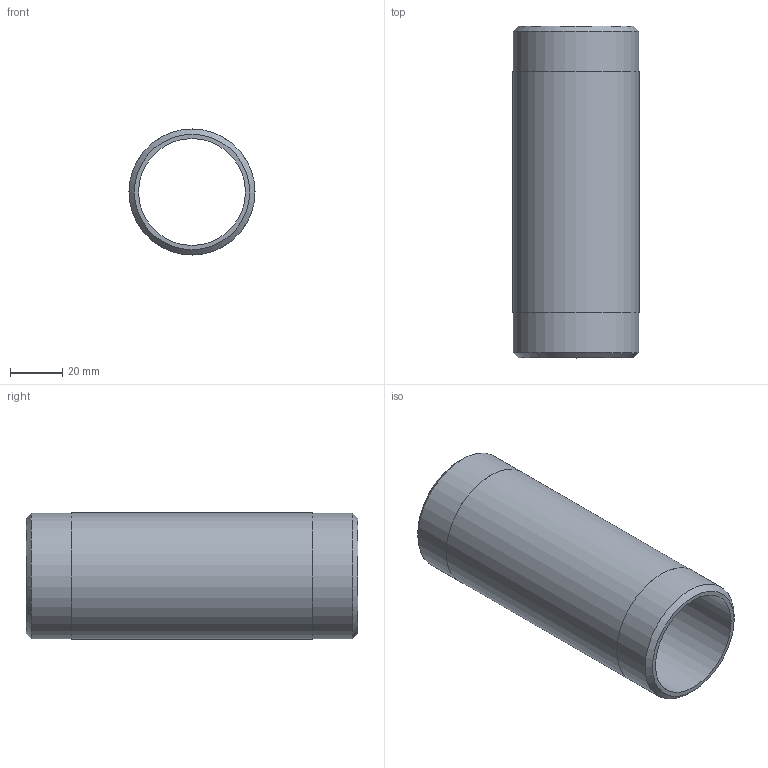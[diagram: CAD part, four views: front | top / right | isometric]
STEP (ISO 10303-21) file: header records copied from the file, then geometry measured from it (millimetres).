
FILE_DESCRIPTION(/* description */ (''),/* implementation_level */ '2;1');
FILE_NAME(/* name */ 'C:/Users/drich/Desktop/BPN1-1_2-5 v1.step',/* time_stamp */ '2020-01-03T14:27:10-06:00',/* author */ (''),/* organization */ (''),/* preprocessor_version */ 'ST-DEVELOPER v18',/* originating_system */ 'Autodesk Translation Framework v8.12.0.6',/* authorisation */ '');
FILE_SCHEMA (('AUTOMOTIVE_DESIGN { 1 0 10303 214 3 1 1 }'));
Length unit declared in the file: inch
Products named in the file (1): BPN1-1_2-5
Bounding box: 48.26 x 127 x 48.26 mm (x, y, z)
Volume: 64762.8 mm3; surface area: 36225.6 mm2
Topology: 1 solids, 1 shells, 10 faces, 24 edges, 18 vertices
Faces by surface type: cylinder 4, plane 4, cone 2
Full cylindrical faces by diameter (mm): 40.894 x1, 48.209 x2, 48.26 x1
Entity records: 360 total; most frequent: DIRECTION 64, CARTESIAN_POINT 53, ORIENTED_EDGE 48, AXIS2_PLACEMENT_3D 29, EDGE_CURVE 24, CIRCLE 18, VERTEX_POINT 18, EDGE_LOOP 14
